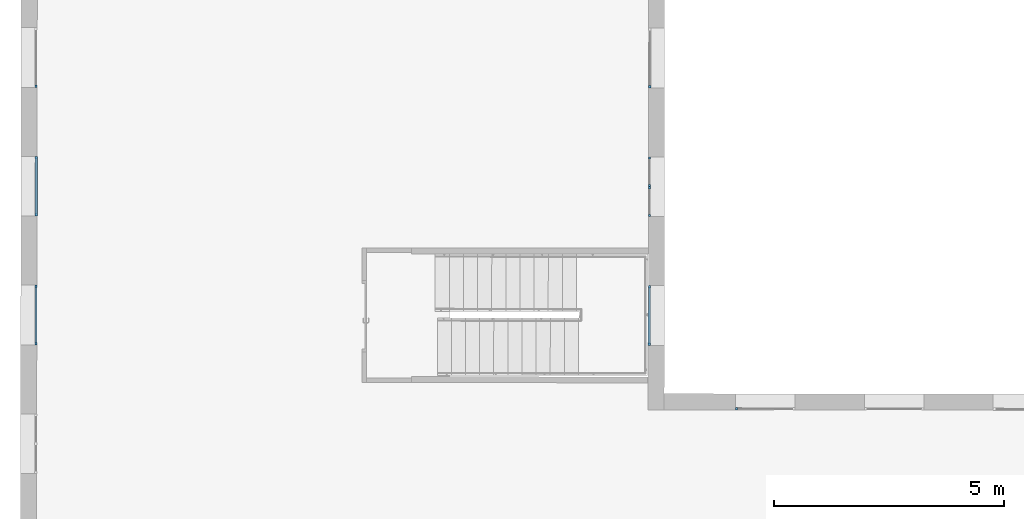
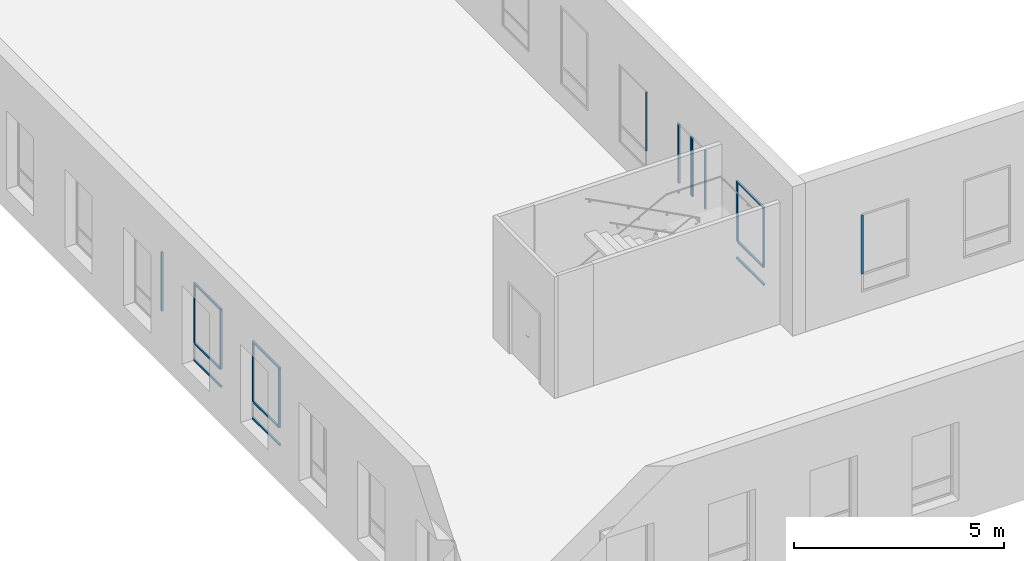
# One storey, part 2 of 35: 22 members, 8 elements without a shape of their own.
"""IFC2X3 building model written with IfcOpenShell, lengths in metres."""

from ifc_helpers import new_model, entity, si_unit, converted_unit, derived_unit, direction, frame, frame_2d, origin, origin_2d_with_axis, place, context, subcontext, project, spatial, rectangle, extrude, source, transform, mapped, material, type_object, type_shapes, element, aggregate, save


model = new_model("IFC2X3")

# Units and contexts
model_context = context("Model", 3, precision=1e-05, world=origin(), true_north=direction((6.123233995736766e-17, 1.0)))
body_context = subcontext(model_context, "Body", "Model", "MODEL_VIEW")
ifc_project = project(units=[si_unit("LENGTHUNIT", "METRE"), si_unit("AREAUNIT", "SQUARE_METRE"), converted_unit("PLANEANGLEUNIT", "DEGREE", entity("IfcPlaneAngleMeasure", 0.017453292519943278), si_unit("PLANEANGLEUNIT", "RADIAN"), dimensions=[0, 0, 0, 0, 0, 0, 0]), derived_unit("THERMALTRANSMITTANCEUNIT", [(si_unit("MASSUNIT", "GRAM", prefix="KILO"), 1), (si_unit("THERMODYNAMICTEMPERATUREUNIT", "KELVIN"), -1), (si_unit("TIMEUNIT", "SECOND"), -3)])], contexts=[model_context])

# Site, building, storey
site_placement = place(None, frame((1253.6752467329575, 2072.143113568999, 91.49999999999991), z_axis=(0.0, 0.0, 1.0), x_axis=(0.7237211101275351, 0.6900925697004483, 0.0)))
site = spatial("IfcSite", under=ifc_project, at=site_placement, Name="Surface", CompositionType="ELEMENT")
building_placement = place(site_placement, origin())
building = spatial("IfcBuilding", under=site, at=building_placement, CompositionType="ELEMENT")
storey_placement = place(building_placement, frame((0.0, 0.0, 3.549999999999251)))
storey = spatial("IfcBuildingStorey", under=building, at=storey_placement, Name="1-R+1", CompositionType="ELEMENT", Elevation=3.549999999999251)

# Curtain wall, member
curtain_wall_type = type_object("IfcCurtainWallType", Name="Mur-rideau:Menuiserie Ext 1F+1OB VERTIC", PredefinedType="NOTDEFINED")
curtain_wall_1_placement = place(storey_placement, frame((0.0, 0.0, -3.549999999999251)))
curtain_wall_1 = element("IfcCurtainWall", 1, at=curtain_wall_1_placement, inside=storey, type_object=curtain_wall_type, Name="Mur-rideau:Menuiserie Ext 1F+1OB VERTIC", ObjectType="Mur-rideau:Menuiserie Ext 1F+1OB VERTIC")
ifc_material = material(Name="OMD_Aluminium Men Ext")
member_type_1 = type_object("IfcMemberType", Name="Meneau rectangulaire:50x50", PredefinedType="MULLION", material=ifc_material)
shared_shape_1 = source(origin(), body_context, "Body", "SweptSolid", [
    extrude(rectangle(XDim=0.05, YDim=0.049999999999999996, at=origin_2d_with_axis()), frame((-0.025, 0.0, -1.2996959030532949), z_axis=(0.0, 0.0, 1.0), x_axis=(-1.0, 0.0, 0.0)), (0.0, 0.0, 1.0), 1.2996959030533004),
])
type_shapes(member_type_1, [shared_shape_1])
member_1_placement = place(curtain_wall_1_placement, frame((151.8210219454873, 12.235292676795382, 6.4499999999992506), z_axis=(0.691154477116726, 0.7227070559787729, 0.0), x_axis=(0.0, 0.0, 1.0)))
member_1 = element("IfcMember", 2, at=member_1_placement, type_object=member_type_1, material=ifc_material, Name="Meneau rectangulaire:50x50", ObjectType="Meneau rectangulaire:50x50", context=body_context, shape_type="MappedRepresentation", body=[
    mapped(shared_shape_1, transform((0.0, 0.0, 0.0), scale=1.0)),
])

curtain_wall_2_placement = place(storey_placement, frame((0.0, 0.0, -3.549999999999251)))
curtain_wall_2 = element("IfcCurtainWall", 3, at=curtain_wall_2_placement, inside=storey, type_object=curtain_wall_type, Name="Mur-rideau:Menuiserie Ext 1F+1OB VERTIC", ObjectType="Mur-rideau:Menuiserie Ext 1F+1OB VERTIC")
member_2_placement = place(curtain_wall_2_placement, frame((153.75577662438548, 14.25932931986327, 6.4499999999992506), z_axis=(0.6911544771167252, 0.7227070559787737, 0.0), x_axis=(0.0, 0.0, 1.0)))
member_2 = element("IfcMember", 4, at=member_2_placement, type_object=member_type_1, material=ifc_material, Name="Meneau rectangulaire:50x50", ObjectType="Meneau rectangulaire:50x50", context=body_context, shape_type="MappedRepresentation", body=[
    mapped(shared_shape_1, transform((0.0, 0.0, 0.0), scale=1.0)),
])

# Member
member_type_2 = type_object("IfcMemberType", Name="Meneau rectangulaire:50x50", PredefinedType="MULLION", material=ifc_material)
shared_shape_2 = source(origin(), body_context, "Body", "SweptSolid", [
    extrude(rectangle(XDim=0.05, YDim=0.05, at=origin_2d_with_axis()), frame((-0.025, 0.0, -1.2996959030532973), z_axis=(0.0, 0.0, 1.0), x_axis=(-1.0, 0.0, 0.0)), (0.0, 0.0, 1.0), 1.2996959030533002),
])
type_shapes(member_type_2, [shared_shape_2])
member_3_placement = place(curtain_wall_1_placement, frame((150.92273130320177, 11.295993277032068, 4.169999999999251), z_axis=(-0.691154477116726, -0.7227070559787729, 0.0), x_axis=(0.0, 0.0, -1.0)))
member_3 = element("IfcMember", 5, at=member_3_placement, type_object=member_type_2, material=ifc_material, Name="Meneau rectangulaire:50x50", ObjectType="Meneau rectangulaire:50x50", context=body_context, shape_type="MappedRepresentation", body=[
    mapped(shared_shape_2, transform((0.0, 0.0, 0.0), scale=1.0)),
])

member_4_placement = place(curtain_wall_2_placement, frame((152.85748598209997, 13.320029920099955, 4.169999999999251), z_axis=(-0.6911544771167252, -0.7227070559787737, 0.0), x_axis=(0.0, 0.0, -1.0)))
member_4 = element("IfcMember", 6, at=member_4_placement, type_object=member_type_2, material=ifc_material, Name="Meneau rectangulaire:50x50", ObjectType="Meneau rectangulaire:50x50", context=body_context, shape_type="MappedRepresentation", body=[
    mapped(shared_shape_2, transform((0.0, 0.0, 0.0), scale=1.0)),
])

member_type_3 = type_object("IfcMemberType", Name="Meneau rectangulaire:50x50", PredefinedType="MULLION", material=ifc_material)
shared_shape_3 = source(origin(), body_context, "Body", "SweptSolid", [
    extrude(rectangle(XDim=0.05, YDim=0.049999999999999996, at=origin_2d_with_axis()), frame((-0.025, 0.0, -1.7099999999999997), z_axis=(0.0, 0.0, 1.0), x_axis=(-1.0, 0.0, 0.0)), (0.0, 0.0, 1.0), 1.7099999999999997),
])
type_shapes(member_type_3, [shared_shape_3])
member_5_placement = place(curtain_wall_1_placement, frame((150.92273130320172, 11.295993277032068, 6.399999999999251), z_axis=(0.0, 0.0, 1.0), x_axis=(-0.6911544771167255, -0.7227070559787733, 0.0)))
member_5 = element("IfcMember", 7, at=member_5_placement, type_object=member_type_3, material=ifc_material, Name="Meneau rectangulaire:50x50", ObjectType="Meneau rectangulaire:50x50", context=body_context, shape_type="MappedRepresentation", body=[
    mapped(shared_shape_3, transform((0.0, 0.0, 0.0), scale=1.0)),
])

member_6_placement = place(curtain_wall_2_placement, frame((152.85748598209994, 13.320029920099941, 6.399999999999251), z_axis=(0.0, 0.0, 1.0), x_axis=(-0.6911544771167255, -0.7227070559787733, 0.0)))
member_6 = element("IfcMember", 8, at=member_6_placement, type_object=member_type_3, material=ifc_material, Name="Meneau rectangulaire:50x50", ObjectType="Meneau rectangulaire:50x50", context=body_context, shape_type="MappedRepresentation", body=[
    mapped(shared_shape_3, transform((0.0, 0.0, 0.0), scale=1.0)),
])

# Curtain wall, member
curtain_wall_3_placement = place(storey_placement, frame((0.0, 0.0, -3.549999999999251)))
curtain_wall_3 = element("IfcCurtainWall", 9, at=curtain_wall_3_placement, inside=storey, type_object=curtain_wall_type, Name="Mur-rideau:Menuiserie Ext 1F+1OB VERTIC", ObjectType="Mur-rideau:Menuiserie Ext 1F+1OB VERTIC")
member_7_placement = place(curtain_wall_3_placement, frame((154.78668807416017, 15.349381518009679, 6.399999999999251), z_axis=(0.0, 0.0, 1.0), x_axis=(-0.6911544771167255, -0.7227070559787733, 0.0)))
member_7 = element("IfcMember", 10, at=member_7_placement, type_object=member_type_3, material=ifc_material, Name="Meneau rectangulaire:50x50", ObjectType="Meneau rectangulaire:50x50", context=body_context, shape_type="MappedRepresentation", body=[
    mapped(shared_shape_3, transform((0.0, 0.0, 0.0), scale=1.0)),
])
aggregate(curtain_wall_3, [member_7])

# Member
member_type_4 = type_object("IfcMemberType", Name="Meneau rectangulaire:50x50", PredefinedType="MULLION", material=ifc_material)
shared_shape_4 = source(origin(), body_context, "Body", "SweptSolid", [
    extrude(rectangle(XDim=0.05, YDim=0.049999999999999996, at=origin_2d_with_axis()), frame((-0.025, 0.0, -1.7099999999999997), z_axis=(0.0, 0.0, 1.0), x_axis=(-1.0, 0.0, 0.0)), (0.0, 0.0, 1.0), 1.7099999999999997),
])
type_shapes(member_type_4, [shared_shape_4])
member_8_placement = place(curtain_wall_1_placement, frame((151.8210219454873, 12.235292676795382, 4.689999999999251), z_axis=(0.0, 0.0, -1.0), x_axis=(0.6911544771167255, 0.7227070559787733, 0.0)))
member_8 = element("IfcMember", 11, at=member_8_placement, type_object=member_type_4, material=ifc_material, Name="Meneau rectangulaire:50x50", ObjectType="Meneau rectangulaire:50x50", context=body_context, shape_type="MappedRepresentation", body=[
    mapped(shared_shape_4, transform((0.0, 0.0, 0.0), scale=1.0)),
])

member_9_placement = place(curtain_wall_2_placement, frame((153.75577662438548, 14.25932931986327, 4.689999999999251), z_axis=(0.0, 0.0, -1.0), x_axis=(0.6911544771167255, 0.7227070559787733, 0.0)))
member_9 = element("IfcMember", 12, at=member_9_placement, type_object=member_type_4, material=ifc_material, Name="Meneau rectangulaire:50x50", ObjectType="Meneau rectangulaire:50x50", context=body_context, shape_type="MappedRepresentation", body=[
    mapped(shared_shape_4, transform((0.0, 0.0, 0.0), scale=1.0)),
])

# Curtain wall, member
curtain_wall_4_placement = place(storey_placement, frame((0.0, 0.0, -3.549999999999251)))
curtain_wall_4 = element("IfcCurtainWall", 13, at=curtain_wall_4_placement, inside=storey, type_object=curtain_wall_type, Name="Mur-rideau:Menuiserie Ext 1F+1OB VERTIC", ObjectType="Mur-rideau:Menuiserie Ext 1F+1OB VERTIC")
member_10_placement = place(curtain_wall_4_placement, frame((160.97019545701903, -0.2053462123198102, 4.689999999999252), z_axis=(0.0, 0.0, -1.0), x_axis=(-0.7228702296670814, 0.6909838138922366, 0.0)))
member_10 = element("IfcMember", 14, at=member_10_placement, type_object=member_type_4, material=ifc_material, Name="Meneau rectangulaire:50x50", ObjectType="Meneau rectangulaire:50x50", context=body_context, shape_type="MappedRepresentation", body=[
    mapped(shared_shape_4, transform((0.0, 0.0, 0.0), scale=1.0)),
])
aggregate(curtain_wall_4, [member_10])

# Member
member_type_5 = type_object("IfcMemberType", Name="Meneau rectangulaire:50x50", PredefinedType="MULLION", material=ifc_material)
shared_shape_5 = source(origin(), body_context, "Body", "SweptSolid", [
    extrude(rectangle(XDim=0.05, YDim=0.05, at=frame_2d((0.0, -1.734723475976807e-18), x_axis=(1.0, 0.0))), frame((0.0, 0.0, -1.1996959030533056), z_axis=(0.0, 0.0, 1.0), x_axis=(-1.0, 0.0, 0.0)), (0.0, 0.0, 1.0), 1.1996959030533),
])
type_shapes(member_type_5, [shared_shape_5])
member_11_placement = place(curtain_wall_1_placement, frame((151.7864642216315, 12.199157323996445, 4.689999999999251), z_axis=(0.691154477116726, 0.7227070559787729, 0.0), x_axis=(0.0, 0.0, 1.0)))
member_11 = element("IfcMember", 15, at=member_11_placement, type_object=member_type_5, material=ifc_material, Name="Meneau rectangulaire:50x50", ObjectType="Meneau rectangulaire:50x50", context=body_context, shape_type="MappedRepresentation", body=[
    mapped(shared_shape_5, transform((0.0, 0.0, 0.0), scale=1.0)),
])

aggregate(curtain_wall_1, [member_1, member_3, member_5, member_8, member_11])

member_12_placement = place(curtain_wall_2_placement, frame((153.7212189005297, 14.223193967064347, 4.689999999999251), z_axis=(0.6911544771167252, 0.7227070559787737, 0.0), x_axis=(0.0, 0.0, 1.0)))
member_12 = element("IfcMember", 16, at=member_12_placement, type_object=member_type_5, material=ifc_material, Name="Meneau rectangulaire:50x50", ObjectType="Meneau rectangulaire:50x50", context=body_context, shape_type="MappedRepresentation", body=[
    mapped(shared_shape_5, transform((0.0, 0.0, 0.0), scale=1.0)),
])

aggregate(curtain_wall_2, [member_2, member_4, member_6, member_9, member_12])

# Curtain wall, members
curtain_wall_5_placement = place(storey_placement, frame((0.0, 0.0, -3.549999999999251)))
curtain_wall_5 = element("IfcCurtainWall", 17, at=curtain_wall_5_placement, inside=storey, type_object=curtain_wall_type, Name="Mur-rideau:Menuiserie Ext 1F+1OB VERTIC", ObjectType="Mur-rideau:Menuiserie Ext 1F+1OB VERTIC")
member_type_6 = type_object("IfcMemberType", Name="Meneau rectangulaire:50x50", PredefinedType="MULLION", material=ifc_material)
shared_shape_6 = source(origin(), body_context, "Body", "SweptSolid", [
    extrude(rectangle(XDim=0.05, YDim=0.05, at=origin_2d_with_axis()), frame((-0.025, 0.0, -1.2996959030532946), z_axis=(0.0, 0.0, 1.0), x_axis=(-1.0, 0.0, 0.0)), (0.0, 0.0, 1.0), 1.299695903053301),
])
type_shapes(member_type_6, [shared_shape_6])
member_13_placement = place(curtain_wall_5_placement, frame((161.46536443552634, 3.0218530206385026, 6.4499999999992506), z_axis=(0.690983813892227, 0.7228702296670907, 0.0), x_axis=(0.0, 0.0, 1.0)))
member_13 = element("IfcMember", 18, at=member_13_placement, type_object=member_type_6, material=ifc_material, Name="Meneau rectangulaire:50x50", ObjectType="Meneau rectangulaire:50x50", context=body_context, shape_type="MappedRepresentation", body=[
    mapped(shared_shape_6, transform((0.0, 0.0, 0.0), scale=1.0)),
])
member_type_7 = type_object("IfcMemberType", Name="Meneau rectangulaire:50x50", PredefinedType="MULLION", material=ifc_material)
shared_shape_7 = source(origin(), body_context, "Body", "SweptSolid", [
    extrude(rectangle(XDim=0.05, YDim=0.05, at=origin_2d_with_axis()), frame((-0.025, 0.0, -1.299695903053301), z_axis=(0.0, 0.0, 1.0), x_axis=(-1.0, 0.0, 0.0)), (0.0, 0.0, 1.0), 1.299695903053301),
])
type_shapes(member_type_7, [shared_shape_7])
member_14_placement = place(curtain_wall_5_placement, frame((160.56729560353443, 2.0823415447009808, 4.169999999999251), z_axis=(-0.690983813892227, -0.7228702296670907, 0.0), x_axis=(0.0, 0.0, -1.0)))
member_14 = element("IfcMember", 19, at=member_14_placement, type_object=member_type_7, material=ifc_material, Name="Meneau rectangulaire:50x50", ObjectType="Meneau rectangulaire:50x50", context=body_context, shape_type="MappedRepresentation", body=[
    mapped(shared_shape_7, transform((0.0, 0.0, 0.0), scale=1.0)),
])

# Curtain wall, member
curtain_wall_6_placement = place(storey_placement, frame((0.0, 0.0, -3.549999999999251)))
curtain_wall_6 = element("IfcCurtainWall", 20, at=curtain_wall_6_placement, inside=storey, type_object=curtain_wall_type, Name="Mur-rideau:Menuiserie Ext 1F+1OB VERTIC", ObjectType="Mur-rideau:Menuiserie Ext 1F+1OB VERTIC")
member_type_8 = type_object("IfcMemberType", Name="Meneau rectangulaire:50x50", PredefinedType="MULLION", material=ifc_material)
shared_shape_8 = source(origin(), body_context, "Body", "SweptSolid", [
    extrude(rectangle(XDim=0.05, YDim=0.05000000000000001, at=origin_2d_with_axis()), frame((-0.025, 0.0, -1.7099999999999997), z_axis=(0.0, 0.0, 1.0), x_axis=(-1.0, 0.0, 0.0)), (0.0, 0.0, 1.0), 1.7099999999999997),
])
type_shapes(member_type_8, [shared_shape_8])
member_15_placement = place(curtain_wall_6_placement, frame((164.43680496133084, 6.130414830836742, 6.399999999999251), z_axis=(0.0, 0.0, 1.0), x_axis=(-0.6909838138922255, -0.722870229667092, 0.0)))
member_15 = element("IfcMember", 21, at=member_15_placement, type_object=member_type_8, material=ifc_material, Name="Meneau rectangulaire:50x50", ObjectType="Meneau rectangulaire:50x50", context=body_context, shape_type="MappedRepresentation", body=[
    mapped(shared_shape_8, transform((0.0, 0.0, 0.0), scale=1.0)),
])
aggregate(curtain_wall_6, [member_15])

# Member
member_16_placement = place(curtain_wall_5_placement, frame((160.56729560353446, 2.0823415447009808, 6.399999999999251), z_axis=(0.0, 0.0, 1.0), x_axis=(-0.6909838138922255, -0.722870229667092, 0.0)))
member_16 = element("IfcMember", 22, at=member_16_placement, type_object=member_type_8, material=ifc_material, Name="Meneau rectangulaire:50x50", ObjectType="Meneau rectangulaire:50x50", context=body_context, shape_type="MappedRepresentation", body=[
    mapped(shared_shape_8, transform((0.0, 0.0, 0.0), scale=1.0)),
])

# Curtain wall, member
curtain_wall_7_placement = place(storey_placement, frame((0.0, 0.0, -3.549999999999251)))
curtain_wall_7 = element("IfcCurtainWall", 23, at=curtain_wall_7_placement, inside=storey, type_object=curtain_wall_type, Name="Mur-rideau:Menuiserie Ext 1F+1OB VERTIC", ObjectType="Mur-rideau:Menuiserie Ext 1F+1OB VERTIC")
member_17_placement = place(curtain_wall_7_placement, frame((162.50205028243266, 4.106378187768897, 6.399999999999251), z_axis=(0.0, 0.0, 1.0), x_axis=(-0.6909838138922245, -0.722870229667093, 0.0)))
member_17 = element("IfcMember", 24, at=member_17_placement, type_object=member_type_8, material=ifc_material, Name="Meneau rectangulaire:50x50", ObjectType="Meneau rectangulaire:50x50", context=body_context, shape_type="MappedRepresentation", body=[
    mapped(shared_shape_8, transform((0.0, 0.0, 0.0), scale=1.0)),
])

# Member
member_type_9 = type_object("IfcMemberType", Name="Meneau rectangulaire:50x50", PredefinedType="MULLION", material=ifc_material)
shared_shape_9 = source(origin(), body_context, "Body", "SweptSolid", [
    extrude(rectangle(XDim=0.05, YDim=0.049999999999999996, at=origin_2d_with_axis()), frame((-0.025, 0.0, -1.7099999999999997), z_axis=(0.0, 0.0, 1.0), x_axis=(-1.0, 0.0, 0.0)), (0.0, 0.0, 1.0), 1.7099999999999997),
])
type_shapes(member_type_9, [shared_shape_9])
member_18_placement = place(curtain_wall_5_placement, frame((161.46536443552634, 3.0218530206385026, 4.689999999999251), z_axis=(0.0, 0.0, -1.0), x_axis=(0.6909838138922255, 0.722870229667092, 0.0)))
member_18 = element("IfcMember", 25, at=member_18_placement, type_object=member_type_9, material=ifc_material, Name="Meneau rectangulaire:50x50", ObjectType="Meneau rectangulaire:50x50", context=body_context, shape_type="MappedRepresentation", body=[
    mapped(shared_shape_9, transform((0.0, 0.0, 0.0), scale=1.0)),
])

member_19_placement = place(curtain_wall_7_placement, frame((162.95097963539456, 4.576024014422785, 4.689999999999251), z_axis=(0.0, 0.0, -1.0), x_axis=(0.6909838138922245, 0.722870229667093, 0.0)))
member_19 = element("IfcMember", 26, at=member_19_placement, type_object=member_type_9, material=ifc_material, Name="Meneau rectangulaire:50x50", ObjectType="Meneau rectangulaire:50x50", context=body_context, shape_type="MappedRepresentation", body=[
    mapped(shared_shape_9, transform((0.0, 0.0, 0.0), scale=1.0)),
])

aggregate(curtain_wall_7, [member_17, member_19])

member_type_10 = type_object("IfcMemberType", Name="Meneau rectangulaire:50x50", PredefinedType="MULLION", material=ifc_material)
shared_shape_10 = source(origin(), body_context, "Body", "SweptSolid", [
    extrude(rectangle(XDim=0.05, YDim=0.05, at=origin_2d_with_axis()), frame((0.0, 0.0, -1.1996959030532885), z_axis=(0.0, 0.0, 1.0), x_axis=(-1.0, 0.0, 0.0)), (0.0, 0.0, 1.0), 1.199695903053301),
])
type_shapes(member_type_10, [shared_shape_10])
member_20_placement = place(curtain_wall_5_placement, frame((161.4308152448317, 2.985709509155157, 4.689999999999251), z_axis=(0.690983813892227, 0.7228702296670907, 0.0), x_axis=(0.0, 0.0, 1.0)))
member_20 = element("IfcMember", 27, at=member_20_placement, type_object=member_type_10, material=ifc_material, Name="Meneau rectangulaire:50x50", ObjectType="Meneau rectangulaire:50x50", context=body_context, shape_type="MappedRepresentation", body=[
    mapped(shared_shape_10, transform((0.0, 0.0, 0.0), scale=1.0)),
])

aggregate(curtain_wall_5, [member_13, member_14, member_16, member_18, member_20])

# Curtain wall, members
curtain_wall_8_placement = place(storey_placement, frame((0.0, 0.0, -3.549999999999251)))
curtain_wall_8 = element("IfcCurtainWall", 28, at=curtain_wall_8_placement, inside=storey, type_object=curtain_wall_type, Name="Mur-rideau:Menuiserie Ext 1F+1OB VERTIC", ObjectType="Mur-rideau:Menuiserie Ext 1F+1OB VERTIC")
member_type_11 = type_object("IfcMemberType", Name="Meneau rectangulaire:50x50", PredefinedType="MULLION", material=ifc_material)
shared_shape_11 = source(origin(), body_context, "Body", "SweptSolid", [
    extrude(rectangle(XDim=0.05, YDim=0.05, at=origin_2d_with_axis()), frame((-0.025, 0.0, -1.7099999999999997), z_axis=(0.0, 0.0, 1.0), x_axis=(-1.0, 0.0, 0.0)), (0.0, 0.0, 1.0), 1.7099999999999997),
])
type_shapes(member_type_11, [shared_shape_11])
member_21_placement = place(curtain_wall_8_placement, frame((163.40011911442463, 5.045889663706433, 6.399999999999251), z_axis=(0.0, 0.0, 1.0), x_axis=(0.6909838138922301, 0.7228702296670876, 0.0)))
member_21 = element("IfcMember", 29, at=member_21_placement, type_object=member_type_11, material=ifc_material, Name="Meneau rectangulaire:50x50", ObjectType="Meneau rectangulaire:50x50", context=body_context, shape_type="MappedRepresentation", body=[
    mapped(shared_shape_11, transform((0.0, 0.0, 0.0), scale=1.0)),
])
member_type_12 = type_object("IfcMemberType", Name="Meneau rectangulaire:50x50", PredefinedType="MULLION", material=ifc_material)
shared_shape_12 = source(origin(), body_context, "Body", "SweptSolid", [
    extrude(rectangle(XDim=0.05, YDim=0.049999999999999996, at=origin_2d_with_axis()), frame((-0.025, 0.0, -1.7099999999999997), z_axis=(0.0, 0.0, 1.0), x_axis=(-1.0, 0.0, 0.0)), (0.0, 0.0, 1.0), 1.7099999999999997),
])
type_shapes(member_type_12, [shared_shape_12])
member_22_placement = place(curtain_wall_8_placement, frame((162.95097963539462, 4.576024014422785, 4.689999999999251), z_axis=(0.0, 0.0, -1.0), x_axis=(-0.6909838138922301, -0.7228702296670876, 0.0)))
member_22 = element("IfcMember", 30, at=member_22_placement, type_object=member_type_12, material=ifc_material, Name="Meneau rectangulaire:50x50", ObjectType="Meneau rectangulaire:50x50", context=body_context, shape_type="MappedRepresentation", body=[
    mapped(shared_shape_12, transform((0.0, 0.0, 0.0), scale=1.0)),
])
aggregate(curtain_wall_8, [member_21, member_22])

save(model, "model.ifc")
